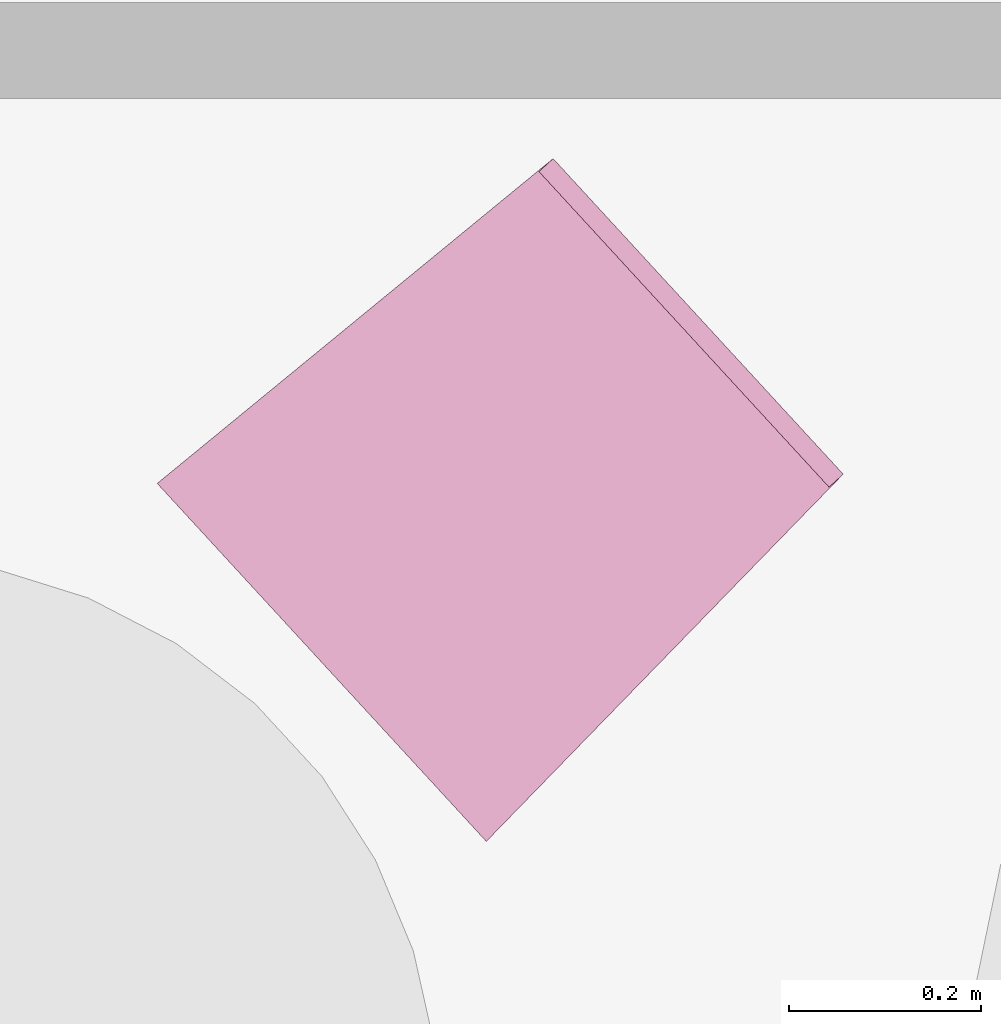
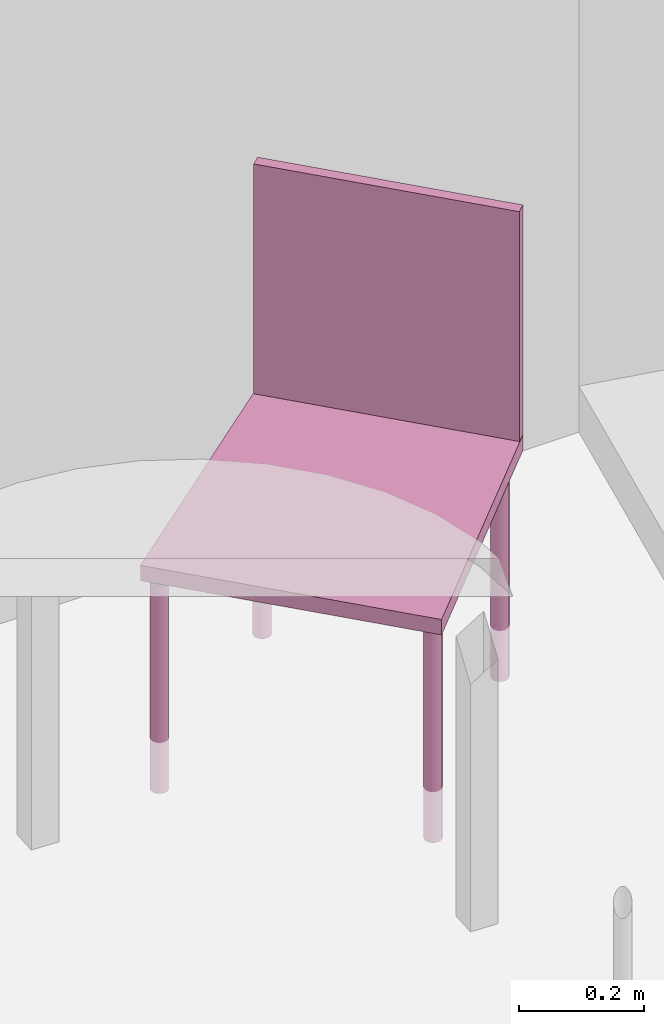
"""IFC4 building model written with IfcOpenShell, lengths in metres."""

from ifc_helpers import new_model, entity, si_unit, converted_unit, derived_unit, frame, origin, place, context, subcontext, project, spatial, faceted_brep, element, save


model = new_model("IFC4")

# Units and contexts
model_context = context("Model", 3, precision=1e-05, world=origin())
body_context = subcontext(model_context, "Body", "Model", "MODEL_VIEW")
ifc_project = project(units=[si_unit("LENGTHUNIT", "METRE"), si_unit("AREAUNIT", "SQUARE_METRE"), si_unit("VOLUMEUNIT", "CUBIC_METRE"), si_unit("MASSUNIT", "GRAM", prefix="KILO"), converted_unit("PLANEANGLEUNIT", "DEGREE", entity("IfcPlaneAngleMeasure", 0.0174532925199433), si_unit("PLANEANGLEUNIT", "RADIAN"), dimensions=[0, 0, 0, 0, 0, 0, 0]), derived_unit("THERMALTRANSMITTANCEUNIT", [(si_unit("POWERUNIT", "WATT"), 1), (si_unit("THERMODYNAMICTEMPERATUREUNIT", "KELVIN"), -1), (si_unit("LENGTHUNIT", "METRE"), -2)]), derived_unit("VOLUMETRICFLOWRATEUNIT", [(si_unit("LENGTHUNIT", "METRE"), 3), (converted_unit("TIMEUNIT", "hour", entity("IfcTimeMeasure", 3600.0), si_unit("TIMEUNIT", "SECOND"), dimensions=[0, 0, 1, 0, 0, 0, 0]), -1), (si_unit("LENGTHUNIT", "METRE"), -1)])], contexts=[model_context])

# Building, storeys
building_placement = place(None, origin())
building = spatial("IfcBuilding", under=ifc_project, at=building_placement, Name="HABITATGE PLURIFAMILIAR", CompositionType="ELEMENT")
storey_1_placement = place(building_placement, frame((0.0, 0.0, 12.27)))
storey_1 = spatial("IfcBuildingStorey", under=building, at=storey_1_placement, Name="PLANTA TERCERA", CompositionType="ELEMENT", Elevation=12.27)
storey_2_placement = place(storey_1_placement, frame((0.0, 0.0, 9.26)))
storey_2 = spatial("IfcBuildingStorey", under=storey_1, at=storey_2_placement, Name="NOU", CompositionType="PARTIAL")

# Furniture
furniture_placement = place(storey_2_placement, frame((424.656839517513, 21.9267329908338, -9.36074913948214)))
element("IfcFurniture", 1, at=furniture_placement, inside=storey_2, Name="Cadira confident_P3", context=body_context, shape_type="Brep", body=[
    faceted_brep([(0.0247551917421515, 0.383021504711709, 0.0), (0.0230003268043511, 0.381097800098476, 0.0), (0.021606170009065, 0.378898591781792, 0.0), (0.0206150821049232, 0.376490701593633, 0.0), (0.0200571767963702, 0.373947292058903, 0.0), (0.0199494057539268, 0.371345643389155, 0.0), (0.0202950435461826, 0.368764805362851, 0.0), (0.0210835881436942, 0.366283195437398, 0.0), (0.0222910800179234, 0.363976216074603, 0.0), (0.0238808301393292, 0.361913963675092, 0.0), (0.0258045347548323, 0.360159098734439, 0.0), (0.0280037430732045, 0.358764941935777, 0.0), (0.030411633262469, 0.357773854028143, 0.0), (0.0329550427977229, 0.357215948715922, 0.0), (0.0355566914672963, 0.357108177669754, 0.0), (0.0381375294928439, 0.357453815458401, 0.0), (0.0406191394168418, 0.358242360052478, 0.0), (0.0429261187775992, 0.359449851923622, 0.0), (0.0449883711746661, 0.361039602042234, 0.0), (0.0467432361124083, 0.362963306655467, 0.0), (0.0481373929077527, 0.365162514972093, 0.0), (0.0491284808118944, 0.367570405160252, 0.0), (0.0496863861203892, 0.37011381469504, 0.0), (0.0497941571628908, 0.372715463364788, 0.0), (0.049448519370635, 0.375296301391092, 0.0), (0.0486599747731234, 0.377777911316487, 0.0), (0.047452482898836, 0.38008489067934, 0.0), (0.0458627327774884, 0.382147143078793, 0.0), (0.0439390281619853, 0.383902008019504, 0.0), (0.0417398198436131, 0.385296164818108, 0.0), (0.0393319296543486, 0.386287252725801, 0.0), (0.0367885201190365, 0.386845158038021, 0.0), (0.0341868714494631, 0.386952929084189, 0.0), (0.0316060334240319, 0.386607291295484, 0.0), (0.0291244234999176, 0.385818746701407, 0.0), (0.0268174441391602, 0.384611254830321, 0.0), (0.0247551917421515, 0.383021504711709, 0.448281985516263), (0.0268174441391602, 0.384611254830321, 0.448281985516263), (0.0291244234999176, 0.385818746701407, 0.448281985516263), (0.0316060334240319, 0.386607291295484, 0.448281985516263), (0.0341868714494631, 0.386952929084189, 0.448281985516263), (0.0367885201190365, 0.386845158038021, 0.448281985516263), (0.0393319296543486, 0.386287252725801, 0.448281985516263), (0.0417398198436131, 0.385296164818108, 0.448281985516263), (0.0439390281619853, 0.383902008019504, 0.448281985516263), (0.0458627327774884, 0.382147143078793, 0.448281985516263), (0.047452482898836, 0.38008489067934, 0.448281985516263), (0.0486599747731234, 0.377777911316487, 0.448281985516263), (0.049448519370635, 0.375296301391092, 0.448281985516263), (0.0497941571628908, 0.372715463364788, 0.448281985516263), (0.0496863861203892, 0.37011381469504, 0.448281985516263), (0.0491284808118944, 0.367570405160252, 0.448281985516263), (0.0481373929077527, 0.365162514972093, 0.448281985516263), (0.0467432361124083, 0.362963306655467, 0.448281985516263), (0.0449883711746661, 0.361039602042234, 0.448281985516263), (0.0429261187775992, 0.359449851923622, 0.448281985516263), (0.0406191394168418, 0.358242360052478, 0.448281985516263), (0.0381375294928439, 0.357453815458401, 0.448281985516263), (0.0355566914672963, 0.357108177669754, 0.448281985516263), (0.0329550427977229, 0.357215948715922, 0.448281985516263), (0.030411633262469, 0.357773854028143, 0.448281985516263), (0.0280037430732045, 0.358764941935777, 0.448281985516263), (0.0258045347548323, 0.360159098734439, 0.448281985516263), (0.0238808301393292, 0.361913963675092, 0.448281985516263), (0.0222910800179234, 0.363976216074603, 0.448281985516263), (0.0210835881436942, 0.366283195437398, 0.448281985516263), (0.0202950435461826, 0.368764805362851, 0.448281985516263), (0.0199494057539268, 0.371345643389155, 0.448281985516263), (0.0200571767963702, 0.373947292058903, 0.448281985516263), (0.0206150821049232, 0.376490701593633, 0.448281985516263), (0.021606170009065, 0.378898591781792, 0.448281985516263), (0.0230003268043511, 0.381097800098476, 0.448281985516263)], [[[0, 1, 2, 3, 4, 5, 6, 7, 8, 9, 10, 11, 12, 13, 14, 15, 16, 17, 18, 19, 20, 21, 22, 23, 24, 25, 26, 27, 28, 29, 30, 31, 32, 33, 34, 35]], [[36, 37, 38, 39, 40, 41, 42, 43, 44, 45, 46, 47, 48, 49, 50, 51, 52, 53, 54, 55, 56, 57, 58, 59, 60, 61, 62, 63, 64, 65, 66, 67, 68, 69, 70, 71]], [[35, 37, 36, 0]], [[34, 38, 37, 35]], [[33, 39, 38, 34]], [[32, 40, 39, 33]], [[31, 41, 40, 32]], [[30, 42, 41, 31]], [[29, 43, 42, 30]], [[28, 44, 43, 29]], [[27, 45, 44, 28]], [[26, 46, 45, 27]], [[25, 47, 46, 26]], [[24, 48, 47, 25]], [[23, 49, 48, 24]], [[22, 50, 49, 23]], [[21, 51, 50, 22]], [[20, 52, 51, 21]], [[19, 53, 52, 20]], [[18, 54, 53, 19]], [[17, 55, 54, 18]], [[16, 56, 55, 17]], [[15, 57, 56, 16]], [[14, 58, 57, 15]], [[13, 59, 58, 14]], [[12, 60, 59, 13]], [[11, 61, 60, 12]], [[10, 62, 61, 11]], [[9, 63, 62, 10]], [[8, 64, 63, 9]], [[7, 65, 64, 8]], [[6, 66, 65, 7]], [[5, 67, 66, 6]], [[4, 68, 67, 5]], [[3, 69, 68, 4]], [[2, 70, 69, 3]], [[1, 71, 70, 2]], [[0, 36, 71, 1]]], orient=[[False], [False], [False], [False], [False], [False], [False], [False], [False], [False], [False], [False], [False], [False], [False], [False], [False], [False], [False], [False], [False], [False], [False], [False], [False], [False], [False], [False], [False], [False], [False], [False], [False], [False], [False], [False], [False], [False]]),
    faceted_brep([(0.383868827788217, 0.675633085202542, 0.0), (0.382113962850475, 0.673709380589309, 0.0), (0.380719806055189, 0.671510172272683, 0.0), (0.379728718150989, 0.669102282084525, 0.0), (0.379170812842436, 0.666558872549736, 0.0), (0.379063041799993, 0.663957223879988, 0.0), (0.379408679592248, 0.661376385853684, 0.0), (0.38019722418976, 0.658894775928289, 0.0), (0.381404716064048, 0.656587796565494, 0.0), (0.382994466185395, 0.654525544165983, 0.0), (0.384918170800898, 0.65277067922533, 0.0), (0.38711737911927, 0.651376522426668, 0.0), (0.389525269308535, 0.650385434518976, 0.0), (0.392068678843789, 0.649827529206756, 0.0), (0.394670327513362, 0.649719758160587, 0.0), (0.397251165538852, 0.650065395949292, 0.0), (0.399732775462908, 0.650853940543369, 0.0), (0.402039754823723, 0.652061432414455, 0.0), (0.404102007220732, 0.653651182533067, 0.0), (0.405856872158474, 0.655574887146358, 0.0), (0.407251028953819, 0.657774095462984, 0.0), (0.408242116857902, 0.660181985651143, 0.0), (0.408800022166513, 0.662725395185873, 0.0), (0.408907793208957, 0.665327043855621, 0.0), (0.408562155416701, 0.667907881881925, 0.0), (0.407773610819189, 0.670389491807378, 0.0), (0.406566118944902, 0.672696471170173, 0.0), (0.404976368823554, 0.674758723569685, 0.0), (0.403052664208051, 0.676513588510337, 0.0), (0.400853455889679, 0.677907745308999, 0.0), (0.398445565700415, 0.678898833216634, 0.0), (0.395902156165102, 0.679456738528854, 0.0), (0.393300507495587, 0.679564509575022, 0.0), (0.390719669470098, 0.679218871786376, 0.0), (0.388238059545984, 0.678430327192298, 0.0), (0.385931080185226, 0.677222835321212, 0.0), (0.383868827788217, 0.675633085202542, 0.448281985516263), (0.385931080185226, 0.677222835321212, 0.448281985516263), (0.388238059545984, 0.678430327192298, 0.448281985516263), (0.390719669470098, 0.679218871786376, 0.448281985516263), (0.393300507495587, 0.679564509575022, 0.448281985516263), (0.395902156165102, 0.679456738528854, 0.448281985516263), (0.398445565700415, 0.678898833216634, 0.448281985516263), (0.400853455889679, 0.677907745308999, 0.448281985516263), (0.403052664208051, 0.676513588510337, 0.448281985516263), (0.404976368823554, 0.674758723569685, 0.448281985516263), (0.406566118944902, 0.672696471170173, 0.448281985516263), (0.407773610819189, 0.670389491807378, 0.448281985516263), (0.408562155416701, 0.667907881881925, 0.448281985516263), (0.408907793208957, 0.665327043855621, 0.448281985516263), (0.408800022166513, 0.662725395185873, 0.448281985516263), (0.408242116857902, 0.660181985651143, 0.448281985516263), (0.407251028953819, 0.657774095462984, 0.448281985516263), (0.405856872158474, 0.655574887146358, 0.448281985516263), (0.404102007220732, 0.653651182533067, 0.448281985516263), (0.402039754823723, 0.652061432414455, 0.448281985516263), (0.399732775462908, 0.650853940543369, 0.448281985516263), (0.397251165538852, 0.650065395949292, 0.448281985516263), (0.394670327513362, 0.649719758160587, 0.448281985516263), (0.392068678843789, 0.649827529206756, 0.448281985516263), (0.389525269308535, 0.650385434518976, 0.448281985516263), (0.38711737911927, 0.651376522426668, 0.448281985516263), (0.384918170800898, 0.65277067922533, 0.448281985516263), (0.382994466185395, 0.654525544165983, 0.448281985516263), (0.381404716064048, 0.656587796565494, 0.448281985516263), (0.38019722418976, 0.658894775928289, 0.448281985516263), (0.379408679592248, 0.661376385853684, 0.448281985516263), (0.379063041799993, 0.663957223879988, 0.448281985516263), (0.379170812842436, 0.666558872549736, 0.448281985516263), (0.379728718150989, 0.669102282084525, 0.448281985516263), (0.380719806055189, 0.671510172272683, 0.448281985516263), (0.382113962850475, 0.673709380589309, 0.448281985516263)], [[[0, 1, 2, 3, 4, 5, 6, 7, 8, 9, 10, 11, 12, 13, 14, 15, 16, 17, 18, 19, 20, 21, 22, 23, 24, 25, 26, 27, 28, 29, 30, 31, 32, 33, 34, 35]], [[36, 37, 38, 39, 40, 41, 42, 43, 44, 45, 46, 47, 48, 49, 50, 51, 52, 53, 54, 55, 56, 57, 58, 59, 60, 61, 62, 63, 64, 65, 66, 67, 68, 69, 70, 71]], [[35, 37, 36, 0]], [[34, 38, 37, 35]], [[33, 39, 38, 34]], [[32, 40, 39, 33]], [[31, 41, 40, 32]], [[30, 42, 41, 31]], [[29, 43, 42, 30]], [[28, 44, 43, 29]], [[27, 45, 44, 28]], [[26, 46, 45, 27]], [[25, 47, 46, 26]], [[24, 48, 47, 25]], [[23, 49, 48, 24]], [[22, 50, 49, 23]], [[21, 51, 50, 22]], [[20, 52, 51, 21]], [[19, 53, 52, 20]], [[18, 54, 53, 19]], [[17, 55, 54, 18]], [[16, 56, 55, 17]], [[15, 57, 56, 16]], [[14, 58, 57, 15]], [[13, 59, 58, 14]], [[12, 60, 59, 13]], [[11, 61, 60, 12]], [[10, 62, 61, 11]], [[9, 63, 62, 10]], [[8, 64, 63, 9]], [[7, 65, 64, 8]], [[6, 66, 65, 7]], [[5, 67, 66, 6]], [[4, 68, 67, 5]], [[3, 69, 68, 4]], [[2, 70, 69, 3]], [[1, 71, 70, 2]], [[0, 36, 71, 1]]], orient=[[False], [False], [False], [False], [False], [False], [False], [False], [False], [False], [False], [False], [False], [False], [False], [False], [False], [False], [False], [False], [False], [False], [False], [False], [False], [False], [False], [False], [False], [False], [False], [False], [False], [False], [False], [False], [False], [False]]),
    faceted_brep([(0.336083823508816, 0.0443852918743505, 0.0), (0.334328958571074, 0.0424615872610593, 0.0), (0.332934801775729, 0.0402623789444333, 0.0), (0.331943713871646, 0.0378544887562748, 0.0), (0.331385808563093, 0.0353110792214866, 0.0), (0.331278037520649, 0.0327094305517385, 0.0), (0.331623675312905, 0.0301285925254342, 0.0), (0.332412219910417, 0.0276469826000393, 0.0), (0.333619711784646, 0.0253400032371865, 0.0), (0.335209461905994, 0.023277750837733, 0.0), (0.337133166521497, 0.0215228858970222, 0.0), (0.339332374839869, 0.0201287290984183, 0.0), (0.341740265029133, 0.0191376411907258, 0.0), (0.344283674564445, 0.0185797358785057, 0.0), (0.346885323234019, 0.0184719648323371, 0.0), (0.349466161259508, 0.0188176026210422, 0.0), (0.351947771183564, 0.0196061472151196, 0.0), (0.354254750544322, 0.0208136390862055, 0.0), (0.356317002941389, 0.0224033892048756, 0.0), (0.358071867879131, 0.0243270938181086, 0.0), (0.359466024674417, 0.0265263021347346, 0.0), (0.360457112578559, 0.0289341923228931, 0.0), (0.361015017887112, 0.0314776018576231, 0.0), (0.361122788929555, 0.0340792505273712, 0.0), (0.360777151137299, 0.0366600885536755, 0.0), (0.359988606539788, 0.0391416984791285, 0.0), (0.358781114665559, 0.0414486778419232, 0.0), (0.357191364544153, 0.0435109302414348, 0.0), (0.355267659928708, 0.0452657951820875, 0.0), (0.353068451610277, 0.0466599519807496, 0.0), (0.350660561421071, 0.0476510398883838, 0.0), (0.348117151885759, 0.0482089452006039, 0.0), (0.345515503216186, 0.0483167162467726, 0.0), (0.342934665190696, 0.0479710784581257, 0.0), (0.34045305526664, 0.0471825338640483, 0.0), (0.338146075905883, 0.0459750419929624, 0.0), (0.336083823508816, 0.0443852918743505, 0.448281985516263), (0.338146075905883, 0.0459750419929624, 0.448281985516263), (0.34045305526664, 0.0471825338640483, 0.448281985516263), (0.342934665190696, 0.0479710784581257, 0.448281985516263), (0.345515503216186, 0.0483167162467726, 0.448281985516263), (0.348117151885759, 0.0482089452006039, 0.448281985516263), (0.350660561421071, 0.0476510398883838, 0.448281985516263), (0.353068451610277, 0.0466599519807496, 0.448281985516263), (0.355267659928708, 0.0452657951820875, 0.448281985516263), (0.357191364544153, 0.0435109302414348, 0.448281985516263), (0.358781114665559, 0.0414486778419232, 0.448281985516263), (0.359988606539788, 0.0391416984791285, 0.448281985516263), (0.360777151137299, 0.0366600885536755, 0.448281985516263), (0.361122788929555, 0.0340792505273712, 0.448281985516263), (0.361015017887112, 0.0314776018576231, 0.448281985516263), (0.360457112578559, 0.0289341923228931, 0.448281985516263), (0.359466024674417, 0.0265263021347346, 0.448281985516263), (0.358071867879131, 0.0243270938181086, 0.448281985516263), (0.356317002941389, 0.0224033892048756, 0.448281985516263), (0.354254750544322, 0.0208136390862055, 0.448281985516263), (0.351947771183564, 0.0196061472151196, 0.448281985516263), (0.349466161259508, 0.0188176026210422, 0.448281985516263), (0.346885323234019, 0.0184719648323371, 0.448281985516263), (0.344283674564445, 0.0185797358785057, 0.448281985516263), (0.341740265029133, 0.0191376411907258, 0.448281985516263), (0.339332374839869, 0.0201287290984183, 0.448281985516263), (0.337133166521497, 0.0215228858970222, 0.448281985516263), (0.335209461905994, 0.023277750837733, 0.448281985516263), (0.333619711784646, 0.0253400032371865, 0.448281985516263), (0.332412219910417, 0.0276469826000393, 0.448281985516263), (0.331623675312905, 0.0301285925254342, 0.448281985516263), (0.331278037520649, 0.0327094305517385, 0.448281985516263), (0.331385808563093, 0.0353110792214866, 0.448281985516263), (0.331943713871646, 0.0378544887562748, 0.448281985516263), (0.332934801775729, 0.0402623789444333, 0.448281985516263), (0.334328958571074, 0.0424615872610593, 0.448281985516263)], [[[0, 1, 2, 3, 4, 5, 6, 7, 8, 9, 10, 11, 12, 13, 14, 15, 16, 17, 18, 19, 20, 21, 22, 23, 24, 25, 26, 27, 28, 29, 30, 31, 32, 33, 34, 35]], [[36, 37, 38, 39, 40, 41, 42, 43, 44, 45, 46, 47, 48, 49, 50, 51, 52, 53, 54, 55, 56, 57, 58, 59, 60, 61, 62, 63, 64, 65, 66, 67, 68, 69, 70, 71]], [[35, 37, 36, 0]], [[34, 38, 37, 35]], [[33, 39, 38, 34]], [[32, 40, 39, 33]], [[31, 41, 40, 32]], [[30, 42, 41, 31]], [[29, 43, 42, 30]], [[28, 44, 43, 29]], [[27, 45, 44, 28]], [[26, 46, 45, 27]], [[25, 47, 46, 26]], [[24, 48, 47, 25]], [[23, 49, 48, 24]], [[22, 50, 49, 23]], [[21, 51, 50, 22]], [[20, 52, 51, 21]], [[19, 53, 52, 20]], [[18, 54, 53, 19]], [[17, 55, 54, 18]], [[16, 56, 55, 17]], [[15, 57, 56, 16]], [[14, 58, 57, 15]], [[13, 59, 58, 14]], [[12, 60, 59, 13]], [[11, 61, 60, 12]], [[10, 62, 61, 11]], [[9, 63, 62, 10]], [[8, 64, 63, 9]], [[7, 65, 64, 8]], [[6, 66, 65, 7]], [[5, 67, 66, 6]], [[4, 68, 67, 5]], [[3, 69, 68, 4]], [[2, 70, 69, 3]], [[1, 71, 70, 2]], [[0, 36, 71, 1]]], orient=[[False], [False], [False], [False], [False], [False], [False], [False], [False], [False], [False], [False], [False], [False], [False], [False], [False], [False], [False], [False], [False], [False], [False], [False], [False], [False], [False], [False], [False], [False], [False], [False], [False], [False], [False], [False], [False], [False]]),
    faceted_brep([(0.654589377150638, 0.381166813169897, 0.0), (0.652834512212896, 0.379243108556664, 0.0), (0.651440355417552, 0.37704390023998, 0.0), (0.65044926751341, 0.37463601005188, 0.0), (0.649891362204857, 0.372092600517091, 0.0), (0.649783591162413, 0.369490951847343, 0.0), (0.650129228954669, 0.366910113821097, 0.0), (0.650917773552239, 0.364428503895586, 0.0), (0.652125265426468, 0.362121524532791, 0.0), (0.653715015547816, 0.36005927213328, 0.0), (0.655638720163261, 0.358304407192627, 0.0), (0.657837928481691, 0.356910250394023, 0.0), (0.660245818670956, 0.355919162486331, 0.0), (0.662789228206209, 0.35536125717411, 0.0), (0.665390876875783, 0.355253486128, 0.0), (0.667971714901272, 0.355599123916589, 0.0), (0.670453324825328, 0.356387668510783, 0.0), (0.672760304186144, 0.357595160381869, 0.0), (0.674822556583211, 0.359184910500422, 0.0), (0.676577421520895, 0.361108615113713, 0.0), (0.677971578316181, 0.363307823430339, 0.0), (0.678962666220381, 0.36571571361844, 0.0), (0.679520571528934, 0.368259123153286, 0.0), (0.679628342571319, 0.370860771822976, 0.0), (0.679282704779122, 0.37344160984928, 0.0), (0.67849416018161, 0.375923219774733, 0.0), (0.677286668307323, 0.378230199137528, 0.0), (0.675696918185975, 0.38029245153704, 0.0), (0.673773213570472, 0.382047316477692, 0.0), (0.6715740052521, 0.383441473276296, 0.0), (0.669166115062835, 0.384432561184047, 0.0), (0.666622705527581, 0.384990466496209, 0.0), (0.664021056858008, 0.385098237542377, 0.0), (0.66144021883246, 0.38475259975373, 0.0), (0.658958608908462, 0.383964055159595, 0.0), (0.656651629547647, 0.382756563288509, 0.0), (0.654589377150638, 0.381166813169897, 0.448281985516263), (0.656651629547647, 0.382756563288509, 0.448281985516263), (0.658958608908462, 0.383964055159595, 0.448281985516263), (0.66144021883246, 0.38475259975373, 0.448281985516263), (0.664021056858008, 0.385098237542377, 0.448281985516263), (0.666622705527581, 0.384990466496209, 0.448281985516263), (0.669166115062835, 0.384432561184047, 0.448281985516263), (0.6715740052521, 0.383441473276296, 0.448281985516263), (0.673773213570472, 0.382047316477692, 0.448281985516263), (0.675696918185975, 0.38029245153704, 0.448281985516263), (0.677286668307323, 0.378230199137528, 0.448281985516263), (0.67849416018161, 0.375923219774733, 0.448281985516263), (0.679282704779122, 0.37344160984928, 0.448281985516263), (0.679628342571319, 0.370860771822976, 0.448281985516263), (0.679520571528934, 0.368259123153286, 0.448281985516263), (0.678962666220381, 0.36571571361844, 0.448281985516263), (0.677971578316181, 0.363307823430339, 0.448281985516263), (0.676577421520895, 0.361108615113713, 0.448281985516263), (0.674822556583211, 0.359184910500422, 0.448281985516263), (0.672760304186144, 0.357595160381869, 0.448281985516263), (0.670453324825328, 0.356387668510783, 0.448281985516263), (0.667971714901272, 0.355599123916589, 0.448281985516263), (0.665390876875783, 0.355253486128, 0.448281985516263), (0.662789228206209, 0.35536125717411, 0.448281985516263), (0.660245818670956, 0.355919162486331, 0.448281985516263), (0.657837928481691, 0.356910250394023, 0.448281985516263), (0.655638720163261, 0.358304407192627, 0.448281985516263), (0.653715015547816, 0.36005927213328, 0.448281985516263), (0.652125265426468, 0.362121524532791, 0.448281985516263), (0.650917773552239, 0.364428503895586, 0.448281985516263), (0.650129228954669, 0.366910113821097, 0.448281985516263), (0.649783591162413, 0.369490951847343, 0.448281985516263), (0.649891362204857, 0.372092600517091, 0.448281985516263), (0.65044926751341, 0.37463601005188, 0.448281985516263), (0.651440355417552, 0.37704390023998, 0.448281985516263), (0.652834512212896, 0.379243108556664, 0.448281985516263)], [[[0, 1, 2, 3, 4, 5, 6, 7, 8, 9, 10, 11, 12, 13, 14, 15, 16, 17, 18, 19, 20, 21, 22, 23, 24, 25, 26, 27, 28, 29, 30, 31, 32, 33, 34, 35]], [[36, 37, 38, 39, 40, 41, 42, 43, 44, 45, 46, 47, 48, 49, 50, 51, 52, 53, 54, 55, 56, 57, 58, 59, 60, 61, 62, 63, 64, 65, 66, 67, 68, 69, 70, 71]], [[35, 37, 36, 0]], [[34, 38, 37, 35]], [[33, 39, 38, 34]], [[32, 40, 39, 33]], [[31, 41, 40, 32]], [[30, 42, 41, 31]], [[29, 43, 42, 30]], [[28, 44, 43, 29]], [[27, 45, 44, 28]], [[26, 46, 45, 27]], [[25, 47, 46, 26]], [[24, 48, 47, 25]], [[23, 49, 48, 24]], [[22, 50, 49, 23]], [[21, 51, 50, 22]], [[20, 52, 51, 21]], [[19, 53, 52, 20]], [[18, 54, 53, 19]], [[17, 55, 54, 18]], [[16, 56, 55, 17]], [[15, 57, 56, 16]], [[14, 58, 57, 15]], [[13, 59, 58, 14]], [[12, 60, 59, 13]], [[11, 61, 60, 12]], [[10, 62, 61, 11]], [[9, 63, 62, 10]], [[8, 64, 63, 9]], [[7, 65, 64, 8]], [[6, 66, 65, 7]], [[5, 67, 66, 6]], [[4, 68, 67, 5]], [[3, 69, 68, 4]], [[2, 70, 69, 3]], [[1, 71, 70, 2]], [[0, 36, 71, 1]]], orient=[[False], [False], [False], [False], [False], [False], [False], [False], [False], [False], [False], [False], [False], [False], [False], [False], [False], [False], [False], [False], [False], [False], [False], [False], [False], [False], [False], [False], [False], [False], [False], [False], [False], [False], [False], [False], [False], [False]]),
    faceted_brep([(0.714593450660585, 0.382554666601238, 0.418281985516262), (0.412391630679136, 0.711263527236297, 0.418281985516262), (0.0, 0.372878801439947, 0.418281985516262), (0.342809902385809, 0.0, 0.418281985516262), (0.342809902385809, 0.0, 0.448281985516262), (0.0, 0.372878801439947, 0.448281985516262), (0.412391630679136, 0.711263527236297, 0.448281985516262), (0.714593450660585, 0.382554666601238, 0.448281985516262)], [[[0, 1, 2, 3]], [[4, 5, 6, 7]], [[3, 4, 7, 0]], [[2, 5, 4, 3]], [[1, 6, 5, 2]], [[0, 7, 6, 1]]], orient=[[False], [False], [False], [False], [False], [False]]),
    faceted_brep([(0.699870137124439, 0.369018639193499, 0.448281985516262), (0.714593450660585, 0.382554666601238, 0.448281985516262), (0.412391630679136, 0.711263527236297, 0.448281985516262), (0.39766831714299, 0.697727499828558, 0.448281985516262), (0.39766831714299, 0.697727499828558, 0.89828198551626), (0.412391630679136, 0.711263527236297, 0.89828198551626), (0.714593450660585, 0.382554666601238, 0.89828198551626), (0.699870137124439, 0.369018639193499, 0.89828198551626)], [[[0, 1, 2, 3]], [[4, 5, 6, 7]], [[3, 4, 7, 0]], [[2, 5, 4, 3]], [[1, 6, 5, 2]], [[0, 7, 6, 1]]], orient=[[False], [False], [False], [False], [False], [False]]),
])

save(model, "model.ifc")
